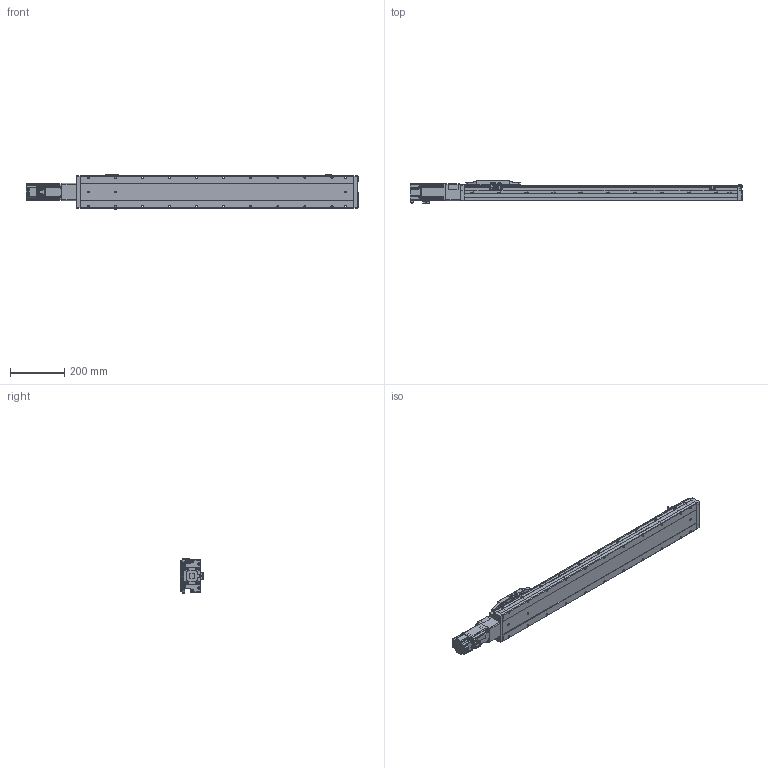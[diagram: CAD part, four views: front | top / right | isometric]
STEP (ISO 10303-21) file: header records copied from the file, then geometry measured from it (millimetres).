
FILE_DESCRIPTION (( 'STEP AP214' ), '1' );
FILE_NAME ('CTH12-L10-S800-BC-C40（简）.STEP', '2023-02-06T05:26:00', ( '' ), ( '' ), 'SwSTEP 2.0', 'SolidWorks 2018', '' );
FILE_SCHEMA (( 'AUTOMOTIVE_DESIGN' ));
Length unit declared in the file: millimetre
Products named in the file (23): CTH12-BC-03_1; 蚐郲; CTH12; 嫖萇羲壽郪磁1333; 内六角圆柱头螺钉M3-1; 400W萇儂; hex nuts, style 1-grades ab gb_GB_FASTENER_NUT_SNAB1 M3-N; 嫖萇羲壽郪磁2; 湮賑怢  裔赽-1(CTH12)賑怢; CTH12覜茼え; CTH嫖萇羲壽假蚾啣; CTH12底座-L1011简（800行程）; CTH12賑怢郪磁; CTH12-BC-06-T40（cth8-bc-06-t40-G）_1; M5蹟隊; 内六角圆柱头螺钉M3-2; CTH12萇儂釱; CTH12-BL_body_4; 内六角圆柱头螺钉M3; CTH12-L10-S800-BC-C40（简）; PM-Y45; CTH12賑怢ㄗ潠ㄘ; CTH12_body_3
Assembly tree (43 placements, depth 4):
  CTH12-L10-S800-BC-C40（简）
    CTH12底座-L1011简（800行程）
    蚐郲  x2
    CTH12-BL_body_4
    CTH12_body_3
    CTH12賑怢郪磁
      CTH12
        湮賑怢  裔赽-1(CTH12)賑怢
        CTH12賑怢ㄗ潠ㄘ
    CTH12覜茼え
    嫖萇羲壽郪磁2
      CTH嫖萇羲壽假蚾啣
      PM-Y45
      内六角圆柱头螺钉M3-1  x2
      内六角圆柱头螺钉M3-2  x2
      hex nuts, style 1-grades ab gb_GB_FASTENER_NUT_SNAB1 M3-N  x2
    CTH12萇儂釱
      CTH12-BC-03_1
      CTH12-BC-06-T40（cth8-bc-06-t40-G）_1
    嫖萇羲壽郪磁1333  x2
      CTH嫖萇羲壽假蚾啣
      PM-Y45
      内六角圆柱头螺钉M3-2
      内六角圆柱头螺钉M3-1
      hex nuts, style 1-grades ab gb_GB_FASTENER_NUT_SNAB1 M3-N
    内六角圆柱头螺钉M3  x6
    400W萇儂
    M5蹟隊  x4
Bounding box: 1225.8 x 86.5 x 131.52 mm (x, y, z)
Volume: 7083469.1 mm3; surface area: 671930.4 mm2
Topology: 45 solids, 47 shells, 2993 faces, 7431 edges, 4663 vertices
Faces by surface type: plane 1472, cylinder 896, cone 359, bspline 138, torus 124, sphere 4
Entity records: 93256 total; most frequent: CARTESIAN_POINT 31814, ORIENTED_EDGE 11964, DIRECTION 11677, EDGE_CURVE 5982, AXIS2_PLACEMENT_3D 4101, VERTEX_POINT 3767, VECTOR 3475, LINE 3475
